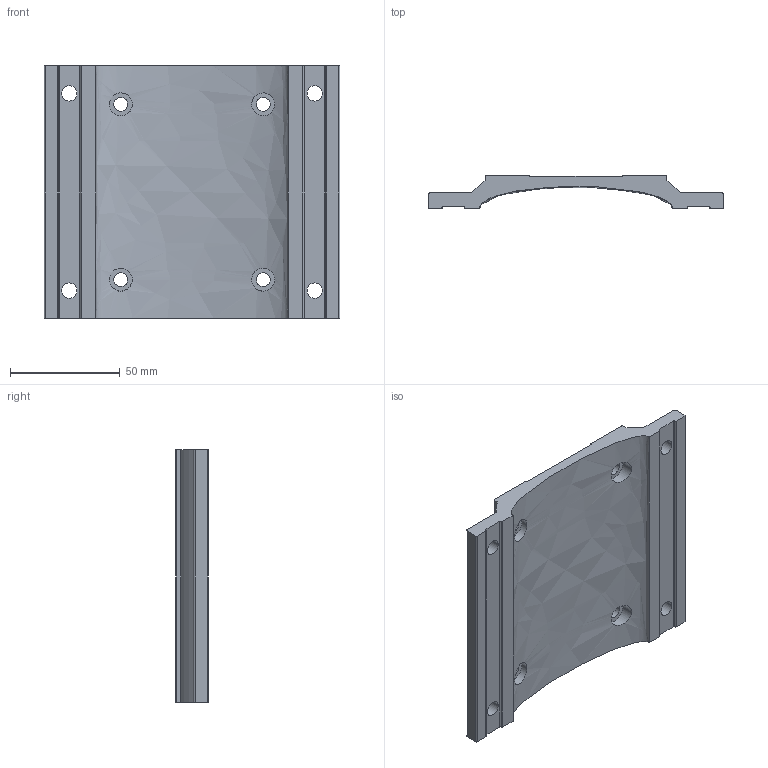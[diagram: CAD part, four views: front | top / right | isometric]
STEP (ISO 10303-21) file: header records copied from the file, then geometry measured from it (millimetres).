
FILE_DESCRIPTION (( 'STEP AP214' ), '1' );
FILE_NAME ('Fuß IG100 2174030.STEP', '2017-08-18T05:30:45', ( 'gfeller' ), ( '' ), 'SwSTEP 2.0', 'SolidWorks 2017', '' );
FILE_SCHEMA (( 'AUTOMOTIVE_DESIGN' ));
Length unit declared in the file: millimetre
Products named in the file (1): Fuß IG100 2174030
Bounding box: 135 x 15 x 115 mm (x, y, z)
Volume: 102074.7 mm3; surface area: 37159.8 mm2
Topology: 1 solids, 1 shells, 64 faces, 174 edges, 116 vertices
Faces by surface type: cylinder 42, plane 21, bspline 1
Entity records: 2421 total; most frequent: CARTESIAN_POINT 682, DIRECTION 368, ORIENTED_EDGE 348, EDGE_CURVE 174, AXIS2_PLACEMENT_3D 140, VERTEX_POINT 116, LINE 88, VECTOR 88
